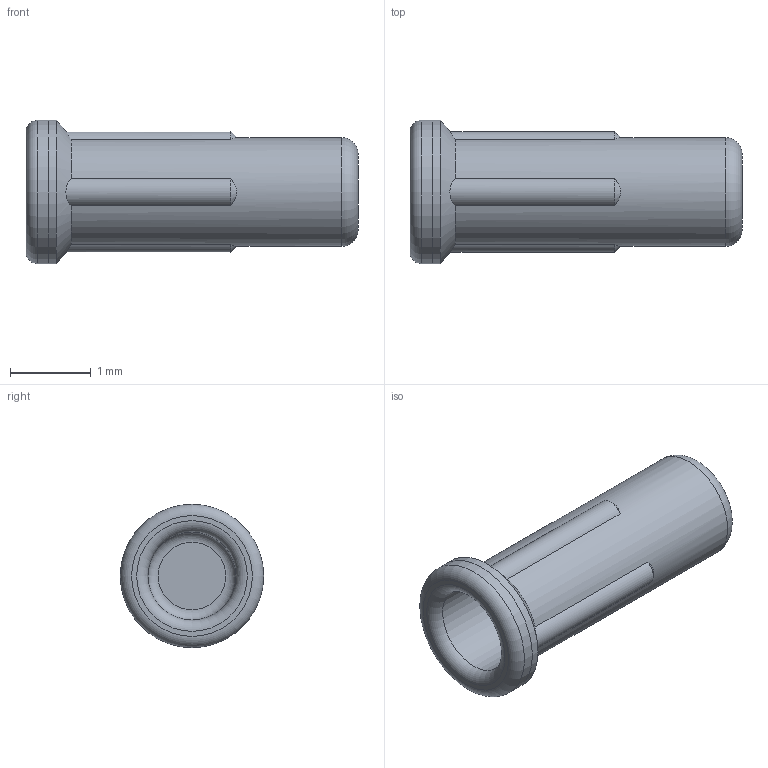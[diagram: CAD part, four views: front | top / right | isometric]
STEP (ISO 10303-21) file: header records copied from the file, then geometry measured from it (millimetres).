
FILE_DESCRIPTION(/* description */ (''),/* implementation_level */ '2;1');
FILE_NAME(/* name */ '\\Snap1\dwgs\Customer 3D Models\450\450-3983 Customer model.stp',/* time_stamp */ '2016-12-21T09:36:37+00:00',/* author */ ('paulk'),/* organization */ (''),/* preprocessor_version */ 'ST-DEVELOPER v15.2',/* originating_system */ 'Autodesk Inventor 2014',/* authorisation */ '');
FILE_SCHEMA (('CONFIG_CONTROL_DESIGN'));
Length unit declared in the file: millimetre
Products named in the file (1): 450-3983 Customer model
Bounding box: 4.11 x 1.78 x 1.78 mm (x, y, z)
Volume: 2.7 mm3; surface area: 35.5 mm2
Topology: 1 solids, 1 shells, 20 faces, 45 edges, 28 vertices
Faces by surface type: cylinder 8, cone 5, torus 4, plane 3
Full cylindrical faces by diameter (mm): 1.092 x1, 1.346 x1, 1.778 x2
Entity records: 637 total; most frequent: CARTESIAN_POINT 201, DIRECTION 86, ORIENTED_EDGE 68, AXIS2_PLACEMENT_3D 39, EDGE_CURVE 34, EDGE_LOOP 30, VERTEX_POINT 26, FACE_OUTER_BOUND 20
